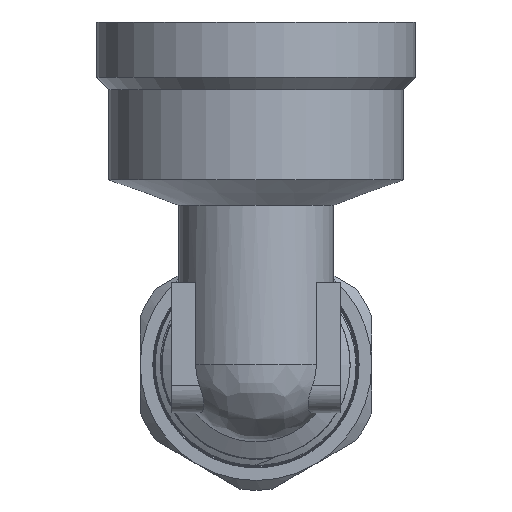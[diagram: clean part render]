
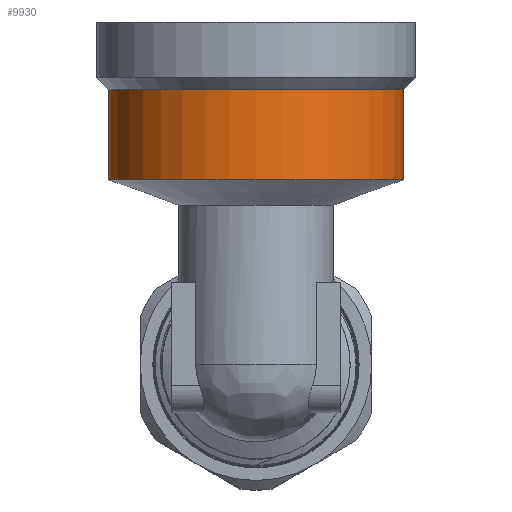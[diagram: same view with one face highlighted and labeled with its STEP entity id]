
A CAD part, front view. The second image highlights one B-rep face of the part: STEP entity #9930.
In plain terms, the highlighted cylindrical face has radius 15.25 mm (diameter 30.5 mm), a full revolution.
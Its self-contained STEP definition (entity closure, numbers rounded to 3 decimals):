
#1237=CYLINDRICAL_SURFACE('',#10624,15.25);
#1338=FACE_OUTER_BOUND('',#1917,.T.);
#1917=EDGE_LOOP('',(#6784,#6785,#6786,#6787,#6788,#6789));
#2547=LINE('',#13121,#3203);
#3203=VECTOR('',#11272,15.25);
#3872=CIRCLE('',#10619,15.25);
#3873=CIRCLE('',#10620,15.25);
#3877=CIRCLE('',#10625,15.25);
#3878=CIRCLE('',#10626,15.25);
#4128=VERTEX_POINT('',#13105);
#4129=VERTEX_POINT('',#13106);
#4133=VERTEX_POINT('',#13117);
#4134=VERTEX_POINT('',#13118);
#5190=EDGE_CURVE('',#4128,#4129,#3872,.T.);
#5191=EDGE_CURVE('',#4129,#4128,#3873,.T.);
#5196=EDGE_CURVE('',#4133,#4134,#3877,.T.);
#5197=EDGE_CURVE('',#4134,#4133,#3878,.T.);
#5198=EDGE_CURVE('',#4134,#4129,#2547,.T.);
#6784=ORIENTED_EDGE('',*,*,#5196,.F.);
#6785=ORIENTED_EDGE('',*,*,#5197,.F.);
#6786=ORIENTED_EDGE('',*,*,#5198,.T.);
#6787=ORIENTED_EDGE('',*,*,#5191,.T.);
#6788=ORIENTED_EDGE('',*,*,#5190,.T.);
#6789=ORIENTED_EDGE('',*,*,#5198,.F.);
#9930=ADVANCED_FACE('',(#1338),#1237,.T.);
#10619=AXIS2_PLACEMENT_3D('',#13107,#11255,#11256);
#10620=AXIS2_PLACEMENT_3D('',#13108,#11257,#11258);
#10624=AXIS2_PLACEMENT_3D('',#13116,#11266,#11267);
#10625=AXIS2_PLACEMENT_3D('',#13119,#11268,#11269);
#10626=AXIS2_PLACEMENT_3D('',#13120,#11270,#11271);
#11255=DIRECTION('center_axis',(0.,0.,1.));
#11256=DIRECTION('ref_axis',(1.,0.,0.));
#11257=DIRECTION('center_axis',(0.,0.,1.));
#11258=DIRECTION('ref_axis',(1.,0.,0.));
#11266=DIRECTION('center_axis',(0.,0.,1.));
#11267=DIRECTION('ref_axis',(0.,-1.,0.));
#11268=DIRECTION('center_axis',(0.,0.,1.));
#11269=DIRECTION('ref_axis',(1.,0.,0.));
#11270=DIRECTION('center_axis',(0.,0.,1.));
#11271=DIRECTION('ref_axis',(1.,0.,0.));
#11272=DIRECTION('',(0.,0.,-1.));
#13105=CARTESIAN_POINT('',(0.,-44.75,19.139));
#13106=CARTESIAN_POINT('',(0.,-14.25,19.139));
#13107=CARTESIAN_POINT('Origin',(0.,-29.5,19.139));
#13108=CARTESIAN_POINT('Origin',(0.,-29.5,19.139));
#13116=CARTESIAN_POINT('Origin',(0.,-29.5,23.819));
#13117=CARTESIAN_POINT('',(0.,-44.75,28.5));
#13118=CARTESIAN_POINT('',(0.,-14.25,28.5));
#13119=CARTESIAN_POINT('Origin',(0.,-29.5,28.5));
#13120=CARTESIAN_POINT('Origin',(0.,-29.5,28.5));
#13121=CARTESIAN_POINT('',(0.,-14.25,23.819));
